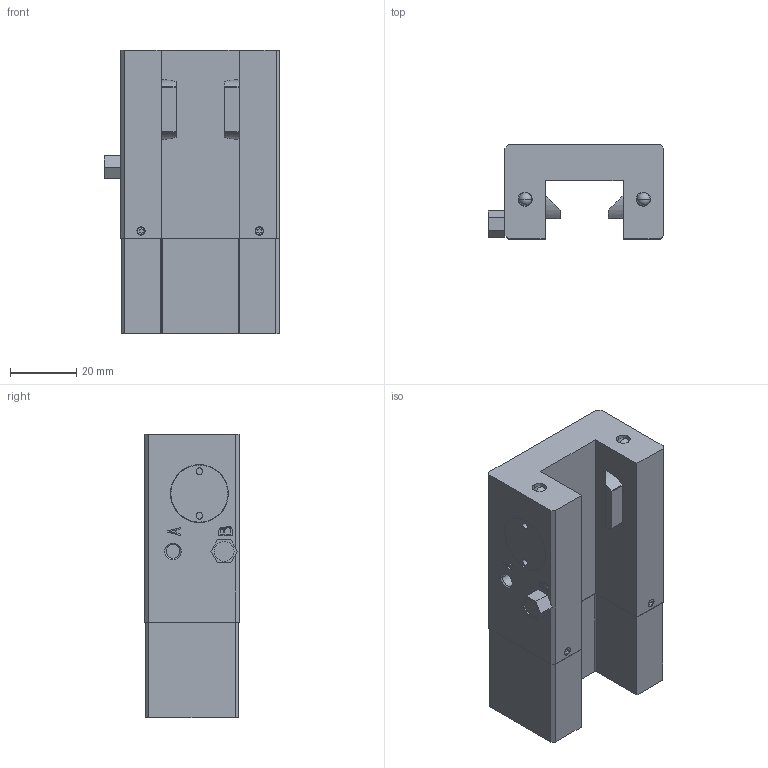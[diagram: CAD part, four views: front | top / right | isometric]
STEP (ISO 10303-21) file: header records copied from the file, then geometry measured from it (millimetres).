
FILE_DESCRIPTION( ( '' ), '1' );
FILE_NAME( 'E:/04 嬴檜蠱滌/0404 ZIMMER/040414 ZIMMER CAD download/LKPS/LKPS2502DS2---.stp', '2020-04-16T09:47:20', ( '' ), ( '' ), ' ', ' ', ' ' );
FILE_SCHEMA( ( 'automotive_design' ) );
Length unit declared in the file: millimetre
Products named in the file (1): 1
Bounding box: 53 x 28.5 x 85.9 mm (x, y, z)
Volume: 80768.8 mm3; surface area: 20060.5 mm2
Topology: 1 solids, 2 shells, 291 faces, 688 edges, 452 vertices
Faces by surface type: plane 185, cylinder 82, cone 16, sphere 4, torus 4
Entity records: 16380 total; most frequent: DIRECTION 1476, STYLED_ITEM 1428, PRESENTATION_STYLE_ASSIGNMENT 1428, CARTESIAN_POINT 1428, COLOUR_RGB 1428, ORIENTED_EDGE 1368, EDGE_CURVE 684, CURVE_STYLE 684
